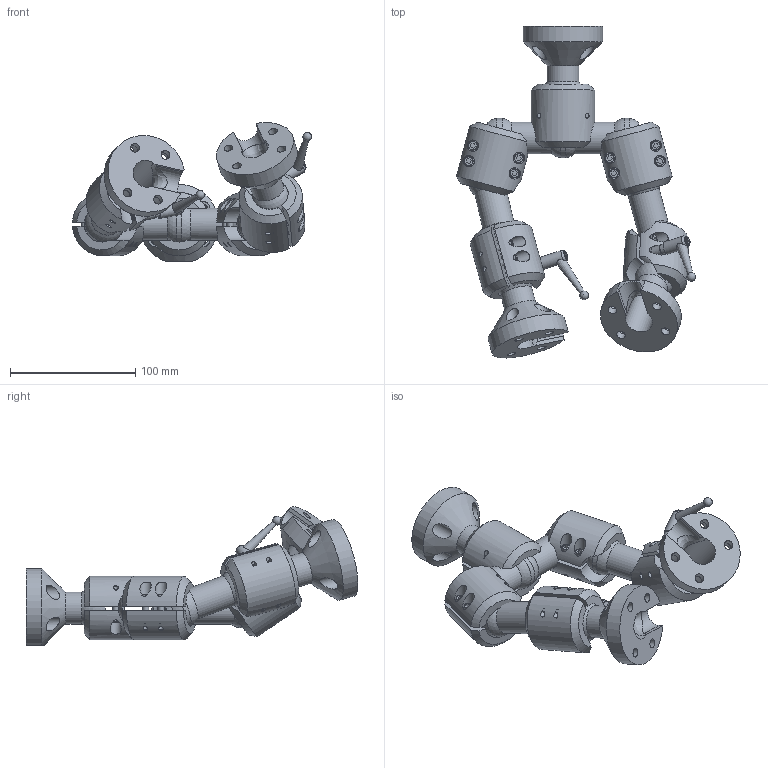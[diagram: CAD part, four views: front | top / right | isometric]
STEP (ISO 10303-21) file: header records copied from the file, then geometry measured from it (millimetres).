
FILE_DESCRIPTION( ( 'Unknown' ), '1' );
FILE_NAME( 'S:/A & P Tool/Start Button Swivel Mount/STP - IGES master files/AFSB-1102.stp', 'Unknown', ( 'Unknown' ), ( 'Unknown' ), 'PSStep 17.0.49', 'Unknown', ' ' );
FILE_SCHEMA( ( 'AUTOMOTIVE_DESIGN { 1 0 10303 214 1 1 1 1 }' ) );
Length unit declared in the file: millimetre
Products named in the file (14): AFSB-290 Extended Knuckle Assembly; AFSB-290 Extended Knuckle; SHCS-10 -24 x .75; AFSB2 Knuckle Assembly; Knuckle; AFSB-1100; AFSB-3T Tee Link; AFSB-1 Ball Base; Assem1; Ball End 2 inch; #548; 10-24 x 1.188 stud Clamp Handle (6271K18)
Assembly tree (26 placements, depth 4):
  Assem1
    AFSB-1 Ball Base  x2
    Ball End 2 inch  x2
    #548  x2
    10-24 x 1.188 stud Clamp Handle (6271K18)  x2
    AFSB-1100
      AFSB-3T Tee Link
      AFSB-1 Ball Base
      AFSB-290 Extended Knuckle Assembly
        AFSB-290 Extended Knuckle
        AFSB-290 Extended Knuckle
        SHCS-10 -24 x .75  x2
      AFSB2 Knuckle Assembly  x2
        Knuckle
        Knuckle
        SHCS-10 -24 x .75
    AFSB2 Knuckle Assembly  x2
      Knuckle
      Knuckle
      SHCS-10 -24 x .75
Bounding box: 191.16 x 265.38 x 111.08 mm (x, y, z)
Volume: 494098.2 mm3; surface area: 192785.7 mm2
Topology: 38 solids, 38 shells, 684 faces, 2066 edges, 1524 vertices
Faces by surface type: plane 315, cylinder 218, cone 101, sphere 39, bspline 7, torus 4
Full cylindrical faces by diameter (mm): 3.68 x18, 4.826 x18, 4.877 x2, 5.613 x18, 5.974 x2, 6.177 x2, 7.144 x12, 7.239 x18, 7.722 x2, 7.938 x2, 9.119 x18, 10.038 x2, 11.113 x12, 22.225 x6, 25.4 x7, 31.496 x6
Entity records: 15559 total; most frequent: CARTESIAN_POINT 8529, ORIENTED_EDGE 1198, DIRECTION 916, EDGE_CURVE 599, VERTEX_POINT 507, AXIS2_PLACEMENT_3D 402, EDGE_LOOP 318, FACE_OUTER_BOUND 248
